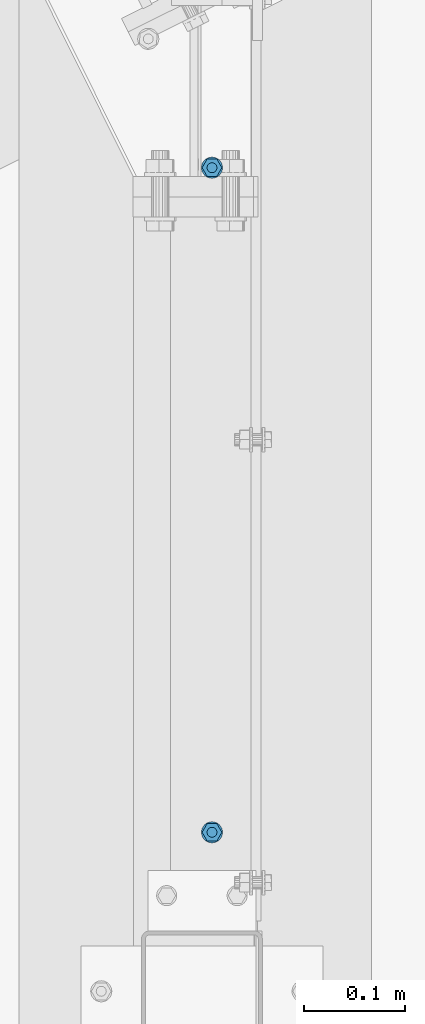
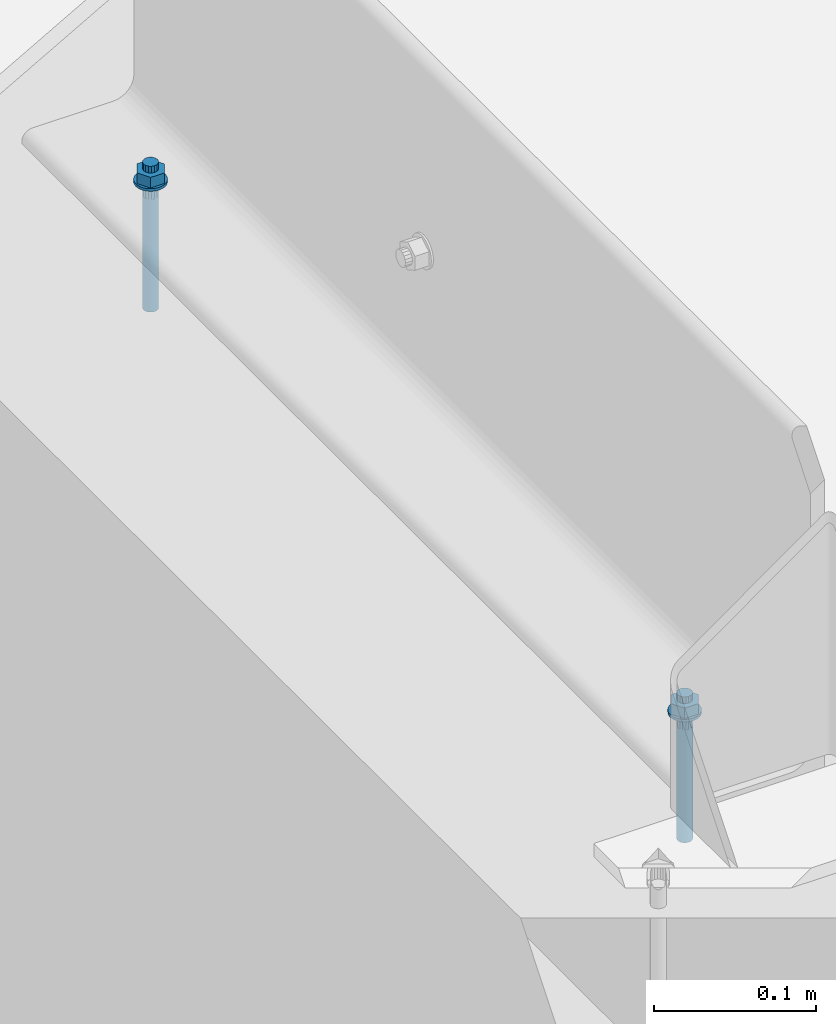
# One storey, part 258 of 476: 1 mechanical fastener.
"""IFC2X3 building model written with IfcOpenShell, lengths in millimetres."""

from ifc_helpers import new_model, entity, si_unit, converted_unit, origin_with_axes, place, context, project, spatial, faceted_brep, element, save


model = new_model("IFC2X3")

# Units and contexts
model_context = context("Model", 3, precision=1e-09, world=origin_with_axes())
ifc_project = project(units=[si_unit("LENGTHUNIT", "METRE", prefix="MILLI"), si_unit("AREAUNIT", "SQUARE_METRE"), si_unit("VOLUMEUNIT", "CUBIC_METRE"), converted_unit("PLANEANGLEUNIT", "DEGREE", entity("IfcPlaneAngleMeasure", 0.01745329), si_unit("PLANEANGLEUNIT", "RADIAN"), dimensions=[0, 0, 0, 0, 0, 0, 0])], contexts=[model_context])

# Site, building, storey
site_placement = place(None, origin_with_axes())
site = spatial("IfcSite", under=ifc_project, at=site_placement, Name="mKR Teilneubau & Sanierung BA1 - Ostfildern", CompositionType="ELEMENT")
building_placement = place(site_placement, origin_with_axes())
building = spatial("IfcBuilding", under=site, at=building_placement, Name="Struktur 1", CompositionType="ELEMENT")
storey_placement = place(building_placement, origin_with_axes())
storey = spatial("IfcBuildingStorey", under=building, at=storey_placement, Name="Default Storey", CompositionType="ELEMENT", Elevation=0.0)

# Mechanical fastener
mechanical_fastener_placement = place(None, origin_with_axes())
element("IfcMechanicalFastener", 1, at=mechanical_fastener_placement, inside=storey, ObjectType="-", NominalDiameter=10.0, NominalLength=110.0, context=model_context, shape_type="Brep", body=[
    faceted_brep([(21982.108764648, 648.323261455, 512.0), (21982.108764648, 648.323261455, 510.0), (21984.15721303, 648.525016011, 510.0), (21984.15721303, 648.525016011, 512.0), (21986.126940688, 649.122526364, 510.0), (21986.126940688, 649.122526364, 512.0), (21987.942252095, 650.092830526, 510.0), (21987.942252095, 650.092830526, 512.0), (21989.533385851, 651.398640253, 510.0), (21989.533385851, 651.398640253, 512.0), (21990.839195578, 652.989774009, 510.0), (21990.839195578, 652.989774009, 512.0), (21991.80949974, 654.805085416, 510.0), (21991.80949974, 654.805085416, 512.0), (21992.407010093, 656.774813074, 510.0), (21992.407010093, 656.774813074, 512.0), (21992.608764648, 658.823261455, 510.0), (21992.608764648, 658.823261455, 512.0), (21992.407010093, 660.871709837, 510.0), (21992.407010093, 660.871709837, 512.0), (21991.80949974, 662.841437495, 510.0), (21991.80949974, 662.841437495, 512.0), (21990.839195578, 664.656748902, 510.0), (21990.839195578, 664.656748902, 512.0), (21989.533385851, 666.247882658, 510.0), (21989.533385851, 666.247882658, 512.0), (21987.942252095, 667.553692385, 510.0), (21987.942252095, 667.553692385, 512.0), (21986.126940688, 668.523996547, 510.0), (21986.126940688, 668.523996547, 512.0), (21984.15721303, 669.1215069, 510.0), (21984.15721303, 669.1215069, 512.0), (21982.108764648, 669.323261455, 510.0), (21982.108764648, 669.323261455, 512.0), (21980.060316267, 669.1215069, 510.0), (21980.060316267, 669.1215069, 512.0), (21978.090588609, 668.523996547, 510.0), (21978.090588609, 668.523996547, 512.0), (21976.275277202, 667.553692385, 510.0), (21976.275277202, 667.553692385, 512.0), (21974.684143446, 666.247882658, 510.0), (21974.684143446, 666.247882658, 512.0), (21973.378333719, 664.656748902, 510.0), (21973.378333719, 664.656748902, 512.0), (21972.408029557, 662.841437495, 510.0), (21972.408029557, 662.841437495, 512.0), (21971.810519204, 660.871709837, 510.0), (21971.810519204, 660.871709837, 512.0), (21971.608764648, 658.823261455, 510.0), (21971.608764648, 658.823261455, 512.0), (21971.810519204, 656.774813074, 510.0), (21971.810519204, 656.774813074, 512.0), (21972.408029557, 654.805085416, 510.0), (21972.408029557, 654.805085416, 512.0), (21973.378333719, 652.989774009, 510.0), (21973.378333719, 652.989774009, 512.0), (21974.684143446, 651.398640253, 510.0), (21974.684143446, 651.398640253, 512.0), (21976.275277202, 650.092830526, 510.0), (21976.275277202, 650.092830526, 512.0), (21978.090588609, 649.122526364, 510.0), (21978.090588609, 649.122526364, 512.0), (21980.060316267, 648.525016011, 510.0), (21980.060316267, 648.525016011, 512.0)], [[[0, 1, 2, 3]], [[3, 2, 4, 5]], [[5, 4, 6, 7]], [[7, 6, 8, 9]], [[9, 8, 10, 11]], [[11, 10, 12, 13]], [[13, 12, 14, 15]], [[15, 14, 16, 17]], [[17, 16, 18, 19]], [[19, 18, 20, 21]], [[21, 20, 22, 23]], [[23, 22, 24, 25]], [[25, 24, 26, 27]], [[27, 26, 28, 29]], [[29, 28, 30, 31]], [[31, 30, 32, 33]], [[33, 32, 34, 35]], [[35, 34, 36, 37]], [[37, 36, 38, 39]], [[39, 38, 40, 41]], [[41, 40, 42, 43]], [[43, 42, 44, 45]], [[45, 44, 46, 47]], [[47, 46, 48, 49]], [[49, 48, 50, 51]], [[51, 50, 52, 53]], [[53, 52, 54, 55]], [[55, 54, 56, 57]], [[57, 56, 58, 59]], [[59, 58, 60, 61]], [[61, 60, 62, 63]], [[63, 62, 1, 0]], [[0, 3, 5, 7, 9, 11, 13, 15, 17, 19, 21, 23, 25, 27, 29, 31, 33, 35, 37, 39, 41, 43, 45, 47, 49, 51, 53, 55, 57, 59, 61, 63]], [[1, 62, 60, 58, 56, 54, 52, 50, 48, 46, 44, 42, 40, 38, 36, 34, 32, 30, 28, 26, 24, 22, 20, 18, 16, 14, 12, 10, 8, 6, 4, 2]]]),
    faceted_brep([(21982.108764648, -11.676738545, 512.0), (21982.108764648, -11.676738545, 510.0), (21984.15721303, -11.474983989, 510.0), (21984.15721303, -11.474983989, 512.0), (21986.126940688, -10.877473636, 510.0), (21986.126940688, -10.877473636, 512.0), (21987.942252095, -9.907169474, 510.0), (21987.942252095, -9.907169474, 512.0), (21989.533385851, -8.601359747, 510.0), (21989.533385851, -8.601359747, 512.0), (21990.839195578, -7.010225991, 510.0), (21990.839195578, -7.010225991, 512.0), (21991.80949974, -5.194914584, 510.0), (21991.80949974, -5.194914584, 512.0), (21992.407010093, -3.225186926, 510.0), (21992.407010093, -3.225186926, 512.0), (21992.608764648, -1.176738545, 510.0), (21992.608764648, -1.176738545, 512.0), (21992.407010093, 0.871709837, 510.0), (21992.407010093, 0.871709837, 512.0), (21991.80949974, 2.841437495, 510.0), (21991.80949974, 2.841437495, 512.0), (21990.839195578, 4.656748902, 510.0), (21990.839195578, 4.656748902, 512.0), (21989.533385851, 6.247882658, 510.0), (21989.533385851, 6.247882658, 512.0), (21987.942252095, 7.553692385, 510.0), (21987.942252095, 7.553692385, 512.0), (21986.126940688, 8.523996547, 510.0), (21986.126940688, 8.523996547, 512.0), (21984.15721303, 9.1215069, 510.0), (21984.15721303, 9.1215069, 512.0), (21982.108764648, 9.323261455, 510.0), (21982.108764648, 9.323261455, 512.0), (21980.060316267, 9.1215069, 510.0), (21980.060316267, 9.1215069, 512.0), (21978.090588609, 8.523996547, 510.0), (21978.090588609, 8.523996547, 512.0), (21976.275277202, 7.553692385, 510.0), (21976.275277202, 7.553692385, 512.0), (21974.684143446, 6.247882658, 510.0), (21974.684143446, 6.247882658, 512.0), (21973.378333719, 4.656748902, 510.0), (21973.378333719, 4.656748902, 512.0), (21972.408029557, 2.841437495, 510.0), (21972.408029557, 2.841437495, 512.0), (21971.810519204, 0.871709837, 510.0), (21971.810519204, 0.871709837, 512.0), (21971.608764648, -1.176738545, 510.0), (21971.608764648, -1.176738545, 512.0), (21971.810519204, -3.225186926, 510.0), (21971.810519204, -3.225186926, 512.0), (21972.408029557, -5.194914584, 510.0), (21972.408029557, -5.194914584, 512.0), (21973.378333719, -7.010225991, 510.0), (21973.378333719, -7.010225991, 512.0), (21974.684143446, -8.601359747, 510.0), (21974.684143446, -8.601359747, 512.0), (21976.275277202, -9.907169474, 510.0), (21976.275277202, -9.907169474, 512.0), (21978.090588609, -10.877473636, 510.0), (21978.090588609, -10.877473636, 512.0), (21980.060316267, -11.474983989, 510.0), (21980.060316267, -11.474983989, 512.0)], [[[0, 1, 2, 3]], [[3, 2, 4, 5]], [[5, 4, 6, 7]], [[7, 6, 8, 9]], [[9, 8, 10, 11]], [[11, 10, 12, 13]], [[13, 12, 14, 15]], [[15, 14, 16, 17]], [[17, 16, 18, 19]], [[19, 18, 20, 21]], [[21, 20, 22, 23]], [[23, 22, 24, 25]], [[25, 24, 26, 27]], [[27, 26, 28, 29]], [[29, 28, 30, 31]], [[31, 30, 32, 33]], [[33, 32, 34, 35]], [[35, 34, 36, 37]], [[37, 36, 38, 39]], [[39, 38, 40, 41]], [[41, 40, 42, 43]], [[43, 42, 44, 45]], [[45, 44, 46, 47]], [[47, 46, 48, 49]], [[49, 48, 50, 51]], [[51, 50, 52, 53]], [[53, 52, 54, 55]], [[55, 54, 56, 57]], [[57, 56, 58, 59]], [[59, 58, 60, 61]], [[61, 60, 62, 63]], [[63, 62, 1, 0]], [[0, 3, 5, 7, 9, 11, 13, 15, 17, 19, 21, 23, 25, 27, 29, 31, 33, 35, 37, 39, 41, 43, 45, 47, 49, 51, 53, 55, 57, 59, 61, 63]], [[1, 62, 60, 58, 56, 54, 52, 50, 48, 46, 44, 42, 40, 38, 36, 34, 32, 30, 28, 26, 24, 22, 20, 18, 16, 14, 12, 10, 8, 6, 4, 2]]]),
    faceted_brep([(21987.008764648, 667.310310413, 512.0), (21987.008764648, 667.310310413, 520.0), (21991.908764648, 658.823261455, 520.0), (21991.908764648, 658.823261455, 512.0), (21987.008764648, 650.336212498, 520.0), (21987.008764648, 650.336212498, 512.0), (21977.208764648, 650.336212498, 520.0), (21977.208764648, 650.336212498, 512.0), (21972.308764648, 658.823261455, 520.0), (21972.308764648, 658.823261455, 512.0), (21977.208764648, 667.310310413, 520.0), (21977.208764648, 667.310310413, 512.0)], [[[0, 1, 2, 3]], [[3, 2, 4, 5]], [[5, 4, 6, 7]], [[7, 6, 8, 9]], [[9, 8, 10, 11]], [[11, 10, 1, 0]], [[4, 2, 1, 10, 8, 6]], [[0, 3, 5, 7, 9, 11]]]),
    faceted_brep([(21987.008764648, 7.310310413, 512.0), (21987.008764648, 7.310310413, 520.0), (21991.908764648, -1.176738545, 520.0), (21991.908764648, -1.176738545, 512.0), (21987.008764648, -9.663787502, 520.0), (21987.008764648, -9.663787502, 512.0), (21977.208764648, -9.663787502, 520.0), (21977.208764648, -9.663787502, 512.0), (21972.308764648, -1.176738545, 520.0), (21972.308764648, -1.176738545, 512.0), (21977.208764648, 7.310310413, 520.0), (21977.208764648, 7.310310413, 512.0)], [[[0, 1, 2, 3]], [[3, 2, 4, 5]], [[5, 4, 6, 7]], [[7, 6, 8, 9]], [[9, 8, 10, 11]], [[11, 10, 1, 0]], [[4, 2, 1, 10, 8, 6]], [[0, 3, 5, 7, 9, 11]]]),
    faceted_brep([(21982.108764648, 653.823261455, 525.0), (21982.108764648, 653.823261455, 520.0), (21984.02218181, 654.203863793, 520.0), (21984.02218181, 654.203863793, 525.0), (21985.644298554, 655.28772755, 520.0), (21985.644298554, 655.28772755, 525.0), (21986.728162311, 656.909844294, 520.0), (21986.728162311, 656.909844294, 525.0), (21987.108764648, 658.823261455, 520.0), (21987.108764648, 658.823261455, 525.0), (21986.728162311, 660.736678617, 520.0), (21986.728162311, 660.736678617, 525.0), (21985.644298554, 662.358795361, 520.0), (21985.644298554, 662.358795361, 525.0), (21984.02218181, 663.442659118, 520.0), (21984.02218181, 663.442659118, 525.0), (21982.108764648, 663.823261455, 520.0), (21982.108764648, 663.823261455, 525.0), (21980.195347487, 663.442659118, 520.0), (21980.195347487, 663.442659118, 525.0), (21978.573230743, 662.358795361, 520.0), (21978.573230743, 662.358795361, 525.0), (21977.489366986, 660.736678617, 520.0), (21977.489366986, 660.736678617, 525.0), (21977.108764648, 658.823261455, 520.0), (21977.108764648, 658.823261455, 525.0), (21977.489366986, 656.909844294, 520.0), (21977.489366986, 656.909844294, 525.0), (21978.573230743, 655.28772755, 520.0), (21978.573230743, 655.28772755, 525.0), (21980.195347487, 654.203863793, 520.0), (21980.195347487, 654.203863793, 525.0)], [[[0, 1, 2, 3]], [[3, 2, 4, 5]], [[5, 4, 6, 7]], [[7, 6, 8, 9]], [[9, 8, 10, 11]], [[11, 10, 12, 13]], [[13, 12, 14, 15]], [[15, 14, 16, 17]], [[17, 16, 18, 19]], [[19, 18, 20, 21]], [[21, 20, 22, 23]], [[23, 22, 24, 25]], [[25, 24, 26, 27]], [[27, 26, 28, 29]], [[29, 28, 30, 31]], [[31, 30, 1, 0]], [[0, 3, 5, 7, 9, 11, 13, 15, 17, 19, 21, 23, 25, 27, 29, 31]], [[1, 30, 28, 26, 24, 22, 20, 18, 16, 14, 12, 10, 8, 6, 4, 2]]]),
    faceted_brep([(21982.108764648, -6.176738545, 525.0), (21982.108764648, -6.176738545, 520.0), (21984.02218181, -5.796136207, 520.0), (21984.02218181, -5.796136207, 525.0), (21985.644298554, -4.71227245, 520.0), (21985.644298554, -4.71227245, 525.0), (21986.728162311, -3.090155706, 520.0), (21986.728162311, -3.090155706, 525.0), (21987.108764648, -1.176738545, 520.0), (21987.108764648, -1.176738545, 525.0), (21986.728162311, 0.736678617, 520.0), (21986.728162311, 0.736678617, 525.0), (21985.644298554, 2.358795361, 520.0), (21985.644298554, 2.358795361, 525.0), (21984.02218181, 3.442659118, 520.0), (21984.02218181, 3.442659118, 525.0), (21982.108764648, 3.823261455, 520.0), (21982.108764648, 3.823261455, 525.0), (21980.195347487, 3.442659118, 520.0), (21980.195347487, 3.442659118, 525.0), (21978.573230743, 2.358795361, 520.0), (21978.573230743, 2.358795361, 525.0), (21977.489366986, 0.736678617, 520.0), (21977.489366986, 0.736678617, 525.0), (21977.108764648, -1.176738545, 520.0), (21977.108764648, -1.176738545, 525.0), (21977.489366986, -3.090155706, 520.0), (21977.489366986, -3.090155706, 525.0), (21978.573230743, -4.71227245, 520.0), (21978.573230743, -4.71227245, 525.0), (21980.195347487, -5.796136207, 520.0), (21980.195347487, -5.796136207, 525.0)], [[[0, 1, 2, 3]], [[3, 2, 4, 5]], [[5, 4, 6, 7]], [[7, 6, 8, 9]], [[9, 8, 10, 11]], [[11, 10, 12, 13]], [[13, 12, 14, 15]], [[15, 14, 16, 17]], [[17, 16, 18, 19]], [[19, 18, 20, 21]], [[21, 20, 22, 23]], [[23, 22, 24, 25]], [[25, 24, 26, 27]], [[27, 26, 28, 29]], [[29, 28, 30, 31]], [[31, 30, 1, 0]], [[0, 3, 5, 7, 9, 11, 13, 15, 17, 19, 21, 23, 25, 27, 29, 31]], [[1, 30, 28, 26, 24, 22, 20, 18, 16, 14, 12, 10, 8, 6, 4, 2]]]),
    faceted_brep([(21982.108764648, 653.823261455, 510.0), (21982.108764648, 653.823261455, 500.0), (21984.02218181, 654.203863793, 500.0), (21984.02218181, 654.203863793, 510.0), (21985.644298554, 655.28772755, 500.0), (21985.644298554, 655.28772755, 510.0), (21986.728162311, 656.909844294, 500.0), (21986.728162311, 656.909844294, 510.0), (21987.108764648, 658.823261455, 500.0), (21987.108764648, 658.823261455, 510.0), (21986.728162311, 660.736678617, 500.0), (21986.728162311, 660.736678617, 510.0), (21985.644298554, 662.358795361, 500.0), (21985.644298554, 662.358795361, 510.0), (21984.02218181, 663.442659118, 500.0), (21984.02218181, 663.442659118, 510.0), (21982.108764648, 663.823261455, 500.0), (21982.108764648, 663.823261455, 510.0), (21980.195347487, 663.442659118, 500.0), (21980.195347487, 663.442659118, 510.0), (21978.573230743, 662.358795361, 500.0), (21978.573230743, 662.358795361, 510.0), (21977.489366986, 660.736678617, 500.0), (21977.489366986, 660.736678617, 510.0), (21977.108764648, 658.823261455, 500.0), (21977.108764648, 658.823261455, 510.0), (21977.489366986, 656.909844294, 500.0), (21977.489366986, 656.909844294, 510.0), (21978.573230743, 655.28772755, 500.0), (21978.573230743, 655.28772755, 510.0), (21980.195347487, 654.203863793, 500.0), (21980.195347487, 654.203863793, 510.0)], [[[0, 1, 2, 3]], [[3, 2, 4, 5]], [[5, 4, 6, 7]], [[7, 6, 8, 9]], [[9, 8, 10, 11]], [[11, 10, 12, 13]], [[13, 12, 14, 15]], [[15, 14, 16, 17]], [[17, 16, 18, 19]], [[19, 18, 20, 21]], [[21, 20, 22, 23]], [[23, 22, 24, 25]], [[25, 24, 26, 27]], [[27, 26, 28, 29]], [[29, 28, 30, 31]], [[31, 30, 1, 0]], [[0, 3, 5, 7, 9, 11, 13, 15, 17, 19, 21, 23, 25, 27, 29, 31]], [[1, 30, 28, 26, 24, 22, 20, 18, 16, 14, 12, 10, 8, 6, 4, 2]]]),
    faceted_brep([(21982.108764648, -6.176738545, 510.0), (21982.108764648, -6.176738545, 500.0), (21984.02218181, -5.796136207, 500.0), (21984.02218181, -5.796136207, 510.0), (21985.644298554, -4.71227245, 500.0), (21985.644298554, -4.71227245, 510.0), (21986.728162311, -3.090155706, 500.0), (21986.728162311, -3.090155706, 510.0), (21987.108764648, -1.176738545, 500.0), (21987.108764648, -1.176738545, 510.0), (21986.728162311, 0.736678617, 500.0), (21986.728162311, 0.736678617, 510.0), (21985.644298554, 2.358795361, 500.0), (21985.644298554, 2.358795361, 510.0), (21984.02218181, 3.442659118, 500.0), (21984.02218181, 3.442659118, 510.0), (21982.108764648, 3.823261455, 500.0), (21982.108764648, 3.823261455, 510.0), (21980.195347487, 3.442659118, 500.0), (21980.195347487, 3.442659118, 510.0), (21978.573230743, 2.358795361, 500.0), (21978.573230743, 2.358795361, 510.0), (21977.489366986, 0.736678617, 500.0), (21977.489366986, 0.736678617, 510.0), (21977.108764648, -1.176738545, 500.0), (21977.108764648, -1.176738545, 510.0), (21977.489366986, -3.090155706, 500.0), (21977.489366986, -3.090155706, 510.0), (21978.573230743, -4.71227245, 500.0), (21978.573230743, -4.71227245, 510.0), (21980.195347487, -5.796136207, 500.0), (21980.195347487, -5.796136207, 510.0)], [[[0, 1, 2, 3]], [[3, 2, 4, 5]], [[5, 4, 6, 7]], [[7, 6, 8, 9]], [[9, 8, 10, 11]], [[11, 10, 12, 13]], [[13, 12, 14, 15]], [[15, 14, 16, 17]], [[17, 16, 18, 19]], [[19, 18, 20, 21]], [[21, 20, 22, 23]], [[23, 22, 24, 25]], [[25, 24, 26, 27]], [[27, 26, 28, 29]], [[29, 28, 30, 31]], [[31, 30, 1, 0]], [[0, 3, 5, 7, 9, 11, 13, 15, 17, 19, 21, 23, 25, 27, 29, 31]], [[1, 30, 28, 26, 24, 22, 20, 18, 16, 14, 12, 10, 8, 6, 4, 2]]]),
    faceted_brep([(21982.108764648, 653.823261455, 500.0), (21982.108764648, 653.823261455, 415.0), (21983.084216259, 653.919335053, 415.0), (21983.084216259, 653.919335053, 500.0), (21984.02218181, 654.203863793, 415.0), (21984.02218181, 654.203863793, 500.0), (21984.886615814, 654.665913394, 415.0), (21984.886615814, 654.665913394, 500.0), (21985.644298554, 655.28772755, 415.0), (21985.644298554, 655.28772755, 500.0), (21986.26611271, 656.04541029, 415.0), (21986.26611271, 656.04541029, 500.0), (21986.728162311, 656.909844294, 415.0), (21986.728162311, 656.909844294, 500.0), (21987.01269105, 657.847809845, 415.0), (21987.01269105, 657.847809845, 500.0), (21987.108764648, 658.823261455, 415.0), (21987.108764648, 658.823261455, 500.0), (21987.01269105, 659.798713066, 415.0), (21987.01269105, 659.798713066, 500.0), (21986.728162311, 660.736678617, 415.0), (21986.728162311, 660.736678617, 500.0), (21986.26611271, 661.601112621, 415.0), (21986.26611271, 661.601112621, 500.0), (21985.644298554, 662.358795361, 415.0), (21985.644298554, 662.358795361, 500.0), (21984.886615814, 662.980609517, 415.0), (21984.886615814, 662.980609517, 500.0), (21984.02218181, 663.442659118, 415.0), (21984.02218181, 663.442659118, 500.0), (21983.084216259, 663.727187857, 415.0), (21983.084216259, 663.727187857, 500.0), (21982.108764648, 663.823261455, 415.0), (21982.108764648, 663.823261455, 500.0), (21981.133313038, 663.727187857, 415.0), (21981.133313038, 663.727187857, 500.0), (21980.195347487, 663.442659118, 415.0), (21980.195347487, 663.442659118, 500.0), (21979.330913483, 662.980609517, 415.0), (21979.330913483, 662.980609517, 500.0), (21978.573230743, 662.358795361, 415.0), (21978.573230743, 662.358795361, 500.0), (21977.951416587, 661.601112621, 415.0), (21977.951416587, 661.601112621, 500.0), (21977.489366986, 660.736678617, 415.0), (21977.489366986, 660.736678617, 500.0), (21977.204838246, 659.798713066, 415.0), (21977.204838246, 659.798713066, 500.0), (21977.108764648, 658.823261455, 415.0), (21977.108764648, 658.823261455, 500.0), (21977.204838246, 657.847809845, 415.0), (21977.204838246, 657.847809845, 500.0), (21977.489366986, 656.909844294, 415.0), (21977.489366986, 656.909844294, 500.0), (21977.951416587, 656.04541029, 415.0), (21977.951416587, 656.04541029, 500.0), (21978.573230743, 655.28772755, 415.0), (21978.573230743, 655.28772755, 500.0), (21979.330913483, 654.665913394, 415.0), (21979.330913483, 654.665913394, 500.0), (21980.195347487, 654.203863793, 415.0), (21980.195347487, 654.203863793, 500.0), (21981.133313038, 653.919335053, 415.0), (21981.133313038, 653.919335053, 500.0)], [[[0, 1, 2, 3]], [[3, 2, 4, 5]], [[5, 4, 6, 7]], [[7, 6, 8, 9]], [[9, 8, 10, 11]], [[11, 10, 12, 13]], [[13, 12, 14, 15]], [[15, 14, 16, 17]], [[17, 16, 18, 19]], [[19, 18, 20, 21]], [[21, 20, 22, 23]], [[23, 22, 24, 25]], [[25, 24, 26, 27]], [[27, 26, 28, 29]], [[29, 28, 30, 31]], [[31, 30, 32, 33]], [[33, 32, 34, 35]], [[35, 34, 36, 37]], [[37, 36, 38, 39]], [[39, 38, 40, 41]], [[41, 40, 42, 43]], [[43, 42, 44, 45]], [[45, 44, 46, 47]], [[47, 46, 48, 49]], [[49, 48, 50, 51]], [[51, 50, 52, 53]], [[53, 52, 54, 55]], [[55, 54, 56, 57]], [[57, 56, 58, 59]], [[59, 58, 60, 61]], [[61, 60, 62, 63]], [[63, 62, 1, 0]], [[0, 3, 5, 7, 9, 11, 13, 15, 17, 19, 21, 23, 25, 27, 29, 31, 33, 35, 37, 39, 41, 43, 45, 47, 49, 51, 53, 55, 57, 59, 61, 63]], [[1, 62, 60, 58, 56, 54, 52, 50, 48, 46, 44, 42, 40, 38, 36, 34, 32, 30, 28, 26, 24, 22, 20, 18, 16, 14, 12, 10, 8, 6, 4, 2]]]),
    faceted_brep([(21982.108764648, -6.176738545, 500.0), (21982.108764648, -6.176738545, 415.0), (21983.084216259, -6.080664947, 415.0), (21983.084216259, -6.080664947, 500.0), (21984.02218181, -5.796136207, 415.0), (21984.02218181, -5.796136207, 500.0), (21984.886615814, -5.334086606, 415.0), (21984.886615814, -5.334086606, 500.0), (21985.644298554, -4.71227245, 415.0), (21985.644298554, -4.71227245, 500.0), (21986.26611271, -3.95458971, 415.0), (21986.26611271, -3.95458971, 500.0), (21986.728162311, -3.090155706, 415.0), (21986.728162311, -3.090155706, 500.0), (21987.01269105, -2.152190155, 415.0), (21987.01269105, -2.152190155, 500.0), (21987.108764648, -1.176738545, 415.0), (21987.108764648, -1.176738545, 500.0), (21987.01269105, -0.201286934, 415.0), (21987.01269105, -0.201286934, 500.0), (21986.728162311, 0.736678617, 415.0), (21986.728162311, 0.736678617, 500.0), (21986.26611271, 1.601112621, 415.0), (21986.26611271, 1.601112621, 500.0), (21985.644298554, 2.358795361, 415.0), (21985.644298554, 2.358795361, 500.0), (21984.886615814, 2.980609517, 415.0), (21984.886615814, 2.980609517, 500.0), (21984.02218181, 3.442659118, 415.0), (21984.02218181, 3.442659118, 500.0), (21983.084216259, 3.727187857, 415.0), (21983.084216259, 3.727187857, 500.0), (21982.108764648, 3.823261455, 415.0), (21982.108764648, 3.823261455, 500.0), (21981.133313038, 3.727187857, 415.0), (21981.133313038, 3.727187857, 500.0), (21980.195347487, 3.442659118, 415.0), (21980.195347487, 3.442659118, 500.0), (21979.330913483, 2.980609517, 415.0), (21979.330913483, 2.980609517, 500.0), (21978.573230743, 2.358795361, 415.0), (21978.573230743, 2.358795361, 500.0), (21977.951416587, 1.601112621, 415.0), (21977.951416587, 1.601112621, 500.0), (21977.489366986, 0.736678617, 415.0), (21977.489366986, 0.736678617, 500.0), (21977.204838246, -0.201286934, 415.0), (21977.204838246, -0.201286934, 500.0), (21977.108764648, -1.176738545, 415.0), (21977.108764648, -1.176738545, 500.0), (21977.204838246, -2.152190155, 415.0), (21977.204838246, -2.152190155, 500.0), (21977.489366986, -3.090155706, 415.0), (21977.489366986, -3.090155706, 500.0), (21977.951416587, -3.95458971, 415.0), (21977.951416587, -3.95458971, 500.0), (21978.573230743, -4.71227245, 415.0), (21978.573230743, -4.71227245, 500.0), (21979.330913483, -5.334086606, 415.0), (21979.330913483, -5.334086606, 500.0), (21980.195347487, -5.796136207, 415.0), (21980.195347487, -5.796136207, 500.0), (21981.133313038, -6.080664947, 415.0), (21981.133313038, -6.080664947, 500.0)], [[[0, 1, 2, 3]], [[3, 2, 4, 5]], [[5, 4, 6, 7]], [[7, 6, 8, 9]], [[9, 8, 10, 11]], [[11, 10, 12, 13]], [[13, 12, 14, 15]], [[15, 14, 16, 17]], [[17, 16, 18, 19]], [[19, 18, 20, 21]], [[21, 20, 22, 23]], [[23, 22, 24, 25]], [[25, 24, 26, 27]], [[27, 26, 28, 29]], [[29, 28, 30, 31]], [[31, 30, 32, 33]], [[33, 32, 34, 35]], [[35, 34, 36, 37]], [[37, 36, 38, 39]], [[39, 38, 40, 41]], [[41, 40, 42, 43]], [[43, 42, 44, 45]], [[45, 44, 46, 47]], [[47, 46, 48, 49]], [[49, 48, 50, 51]], [[51, 50, 52, 53]], [[53, 52, 54, 55]], [[55, 54, 56, 57]], [[57, 56, 58, 59]], [[59, 58, 60, 61]], [[61, 60, 62, 63]], [[63, 62, 1, 0]], [[0, 3, 5, 7, 9, 11, 13, 15, 17, 19, 21, 23, 25, 27, 29, 31, 33, 35, 37, 39, 41, 43, 45, 47, 49, 51, 53, 55, 57, 59, 61, 63]], [[1, 62, 60, 58, 56, 54, 52, 50, 48, 46, 44, 42, 40, 38, 36, 34, 32, 30, 28, 26, 24, 22, 20, 18, 16, 14, 12, 10, 8, 6, 4, 2]]]),
])

save(model, "model.ifc")
